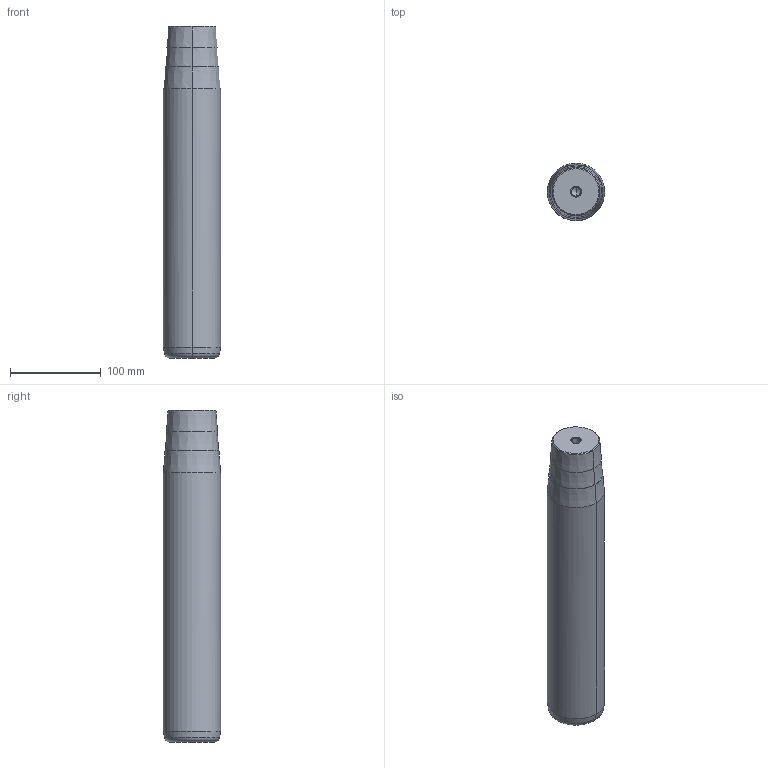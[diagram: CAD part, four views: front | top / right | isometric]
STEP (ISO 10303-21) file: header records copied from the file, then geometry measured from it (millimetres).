
FILE_DESCRIPTION(('CATIA V5 STEP Exchange'),'2;1');
FILE_NAME('C:\Users\Utente\Desktop\IO LAVORO\3D X SITO CF\X SITO\722\722-63x315x366.stp','2021-01-07T19:21:16+00:00',('none'),('none'),'CATIA Version 5 Release 20 GA (IN-10)','CATIA V5 STEP AP203','none');
FILE_SCHEMA(('CONFIG_CONTROL_DESIGN'));
Length unit declared in the file: millimetre
Products named in the file (1): 722-63x315x366
Bounding box: 63 x 63 x 366 mm (x, y, z)
Volume: 1099122.7 mm3; surface area: 77687.2 mm2
Topology: 1 solids, 1 shells, 32 faces, 98 edges, 66 vertices
Faces by surface type: cone 22, cylinder 6, plane 2, torus 2
Entity records: 1172 total; most frequent: CARTESIAN_POINT 285, ORIENTED_EDGE 188, DIRECTION 148, EDGE_CURVE 94, AXIS2_PLACEMENT_3D 89, VERTEX_POINT 66, CIRCLE 56, EDGE_LOOP 34
